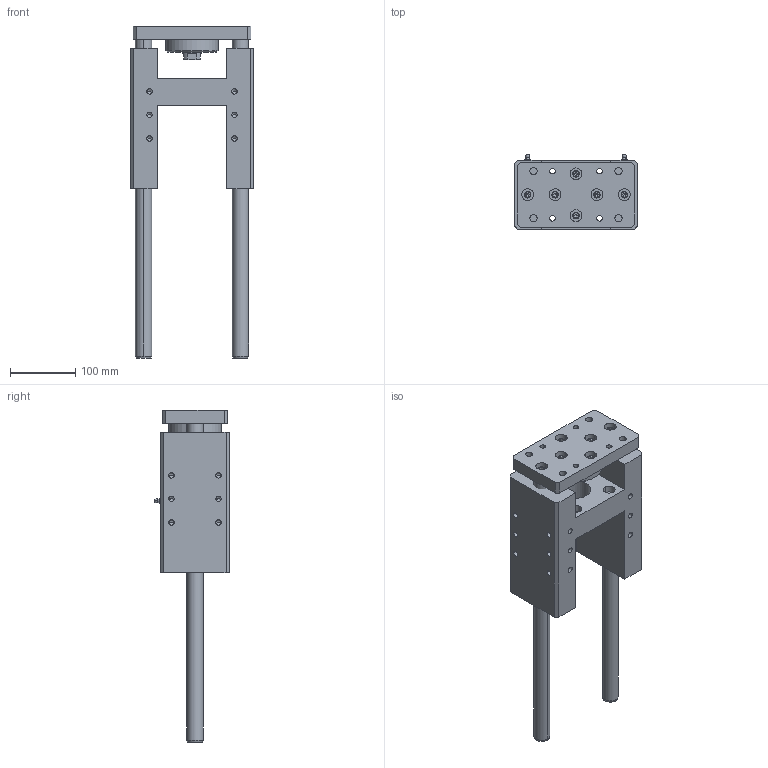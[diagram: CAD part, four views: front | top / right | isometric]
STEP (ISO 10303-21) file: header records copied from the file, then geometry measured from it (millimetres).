
FILE_DESCRIPTION (( 'STEP AP214' ), '1' );
FILE_NAME ('WHCR-080-0250 (3D).STEP', '2018-12-25T06:17:18', ( 'Hidtek' ), ( '' ), 'SwSTEP 2.0', 'SolidWorks 2016', '' );
FILE_SCHEMA (( 'AUTOMOTIVE_DESIGN' ));
Length unit declared in the file: millimetre
Products named in the file (4): WHCR-080-0250 (3D); Group3^WHCR-080-0250 (3D); Group2^WHCR-080-0250 (3D); Group1^WHCR-080-0250 (3D)
Assembly tree (3 placements, depth 2):
  WHCR-080-0250 (3D)
    Group1^WHCR-080-0250 (3D)
    Group2^WHCR-080-0250 (3D)
    Group3^WHCR-080-0250 (3D)
Bounding box: 189 x 114.05 x 508 mm (x, y, z)
Volume: 3099562.5 mm3; surface area: 341301.6 mm2
Topology: 14 solids, 14 shells, 661 faces, 1680 edges, 1062 vertices
Faces by surface type: plane 329, cylinder 140, bspline 112, cone 80
Entity records: 26213 total; most frequent: CARTESIAN_POINT 9701, ORIENTED_EDGE 3256, DIRECTION 2866, EDGE_CURVE 1628, VERTEX_POINT 1062, VECTOR 972, LINE 972, AXIS2_PLACEMENT_3D 947
